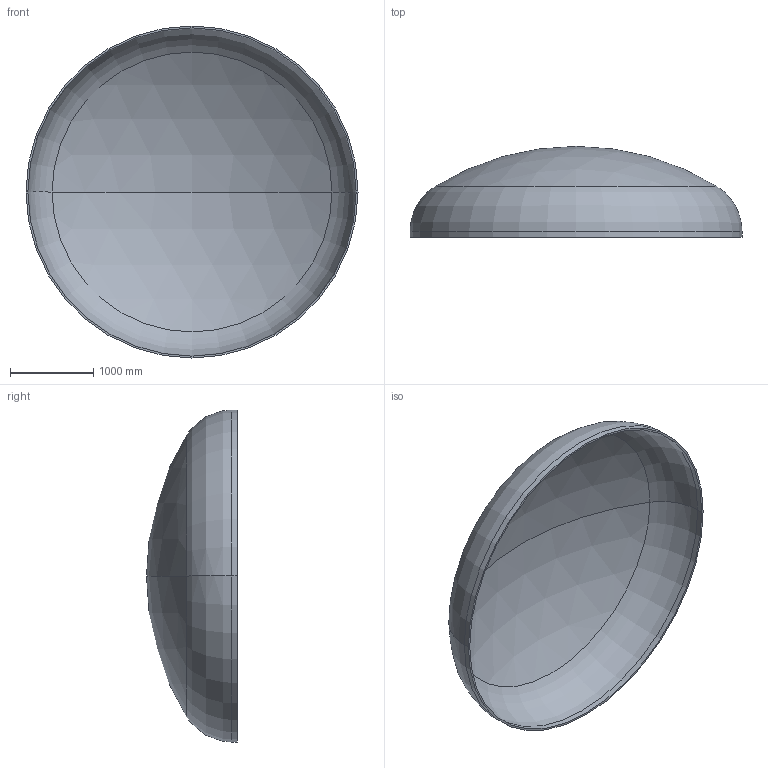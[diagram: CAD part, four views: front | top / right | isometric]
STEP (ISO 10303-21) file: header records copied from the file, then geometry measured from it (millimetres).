
FILE_DESCRIPTION (( 'STEP AP203' ), '1' );
FILE_NAME ('DIN 28013 Korbbogenform_-_Boden DIN 28013 - 4000 x 70 - I - s=23.step', '2016-07-01T22:09:58', ( '' ), ( '' ), 'SwSTEP 2.0', 'SolidWorks 2013', '' );
FILE_SCHEMA (( 'CONFIG_CONTROL_DESIGN' ));
Length unit declared in the file: millimetre
Products named in the file (1): DIN 28013 Korbbogenform_-_Boden DIN 28013 - 4000 x 70 - I - s=23
Bounding box: 4000 x 1095.92 x 4000 mm (x, y, z)
Volume: 417265925.8 mm3; surface area: 36572451.9 mm2
Topology: 1 solids, 1 shells, 13 faces, 24 edges, 14 vertices
Faces by surface type: torus 4, cylinder 4, sphere 4, plane 1
Entity records: 407 total; most frequent: DIRECTION 72, CARTESIAN_POINT 52, ORIENTED_EDGE 48, AXIS2_PLACEMENT_3D 34, EDGE_CURVE 24, CIRCLE 20, EDGE_LOOP 14, VERTEX_POINT 14
